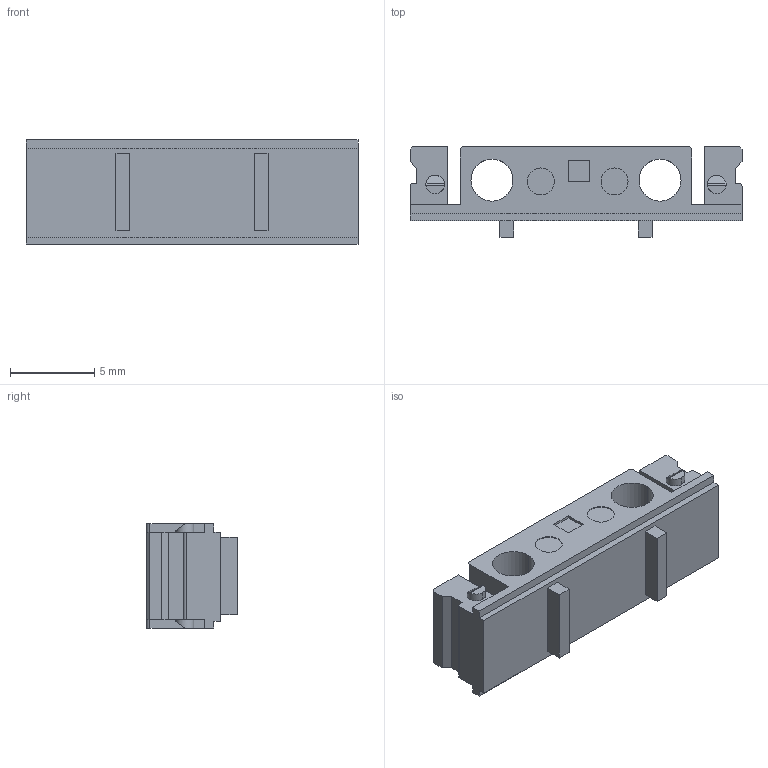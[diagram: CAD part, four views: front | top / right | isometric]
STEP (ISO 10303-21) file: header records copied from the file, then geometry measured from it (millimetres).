
FILE_DESCRIPTION (( 'STEP AP214' ), '1' );
FILE_NAME ('limit-switch-bottomcase.STEP', '2018-02-15T22:10:33', ( '' ), ( '' ), 'SwSTEP 2.0', 'SolidWorks 2018', '' );
FILE_SCHEMA (( 'AUTOMOTIVE_DESIGN' ));
Length unit declared in the file: millimetre
Products named in the file (1): limit-switch-bottomcase
Bounding box: 19.75 x 5.4 x 6.2 mm (x, y, z)
Volume: 424.8 mm3; surface area: 647.7 mm2
Topology: 1 solids, 1 shells, 110 faces, 282 edges, 188 vertices
Faces by surface type: plane 76, cylinder 26, bspline 8
Entity records: 4040 total; most frequent: CARTESIAN_POINT 1365, ORIENTED_EDGE 564, DIRECTION 500, EDGE_CURVE 282, LINE 206, VECTOR 206, VERTEX_POINT 188, AXIS2_PLACEMENT_3D 147
